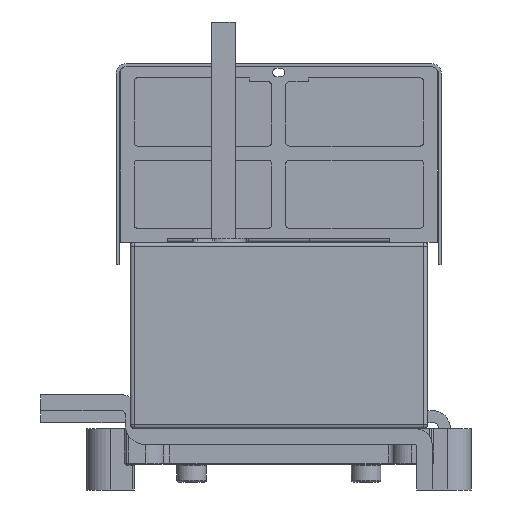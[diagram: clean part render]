
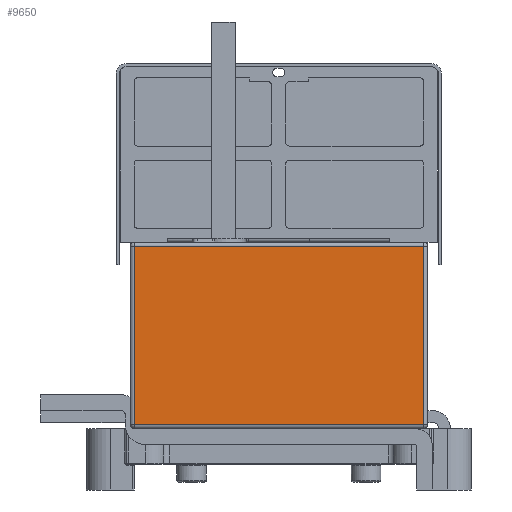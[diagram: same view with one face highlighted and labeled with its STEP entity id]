
A CAD part, left-side view. The second image highlights one B-rep face of the part: STEP entity #9650.
In plain terms, the highlighted planar face has unit normal (-1, 0, 0).
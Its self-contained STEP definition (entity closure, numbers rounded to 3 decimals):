
#2929=LINE('',#51081,#5727);
#2934=LINE('',#51102,#5732);
#2937=LINE('',#51125,#5735);
#2944=LINE('',#51135,#5742);
#5727=VECTOR('',#39424,1.);
#5732=VECTOR('',#39449,1.);
#5735=VECTOR('',#39478,1.);
#5742=VECTOR('',#39491,1.);
#6692=PLANE('',#31564);
#8086=FACE_OUTER_BOUND('',#12532,.T.);
#9650=ADVANCED_FACE('',(#8086),#6692,.F.);
#12532=EDGE_LOOP('',(#20018,#20019,#20020,#20021));
#20018=ORIENTED_EDGE('',*,*,#27606,.T.);
#20019=ORIENTED_EDGE('',*,*,#27588,.T.);
#20020=ORIENTED_EDGE('',*,*,#27599,.T.);
#20021=ORIENTED_EDGE('',*,*,#27577,.T.);
#23595=VERTEX_POINT('',#51067);
#23599=VERTEX_POINT('',#51078);
#23604=VERTEX_POINT('',#51095);
#23605=VERTEX_POINT('',#51099);
#27577=EDGE_CURVE('',#23599,#23595,#2929,.T.);
#27588=EDGE_CURVE('',#23605,#23604,#2934,.T.);
#27599=EDGE_CURVE('',#23604,#23599,#2937,.T.);
#27606=EDGE_CURVE('',#23595,#23605,#2944,.T.);
#31564=AXIS2_PLACEMENT_3D('',#51188,#39536,#39537);
#39424=DIRECTION('',(0.,1.,0.));
#39449=DIRECTION('',(0.,-1.,0.));
#39478=DIRECTION('',(0.,0.,1.));
#39491=DIRECTION('',(0.,0.,-1.));
#39536=DIRECTION('',(1.,0.,0.));
#39537=DIRECTION('',(0.,1.,0.));
#51067=CARTESIAN_POINT('',(-150.,73.,92.));
#51078=CARTESIAN_POINT('',(-150.,-73.,92.));
#51081=CARTESIAN_POINT('',(-150.,73.,92.));
#51095=CARTESIAN_POINT('',(-150.,-73.,2.));
#51099=CARTESIAN_POINT('',(-150.,73.,2.));
#51102=CARTESIAN_POINT('',(-150.,75.,2.));
#51125=CARTESIAN_POINT('',(-150.,-73.,94.));
#51135=CARTESIAN_POINT('',(-150.,73.,94.));
#51188=CARTESIAN_POINT('',(-150.,75.,94.));
